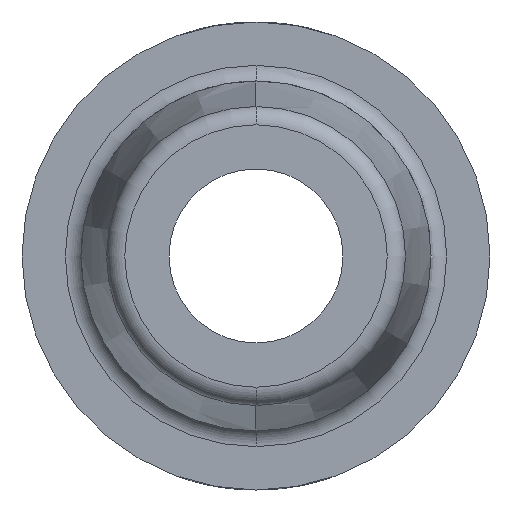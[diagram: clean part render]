
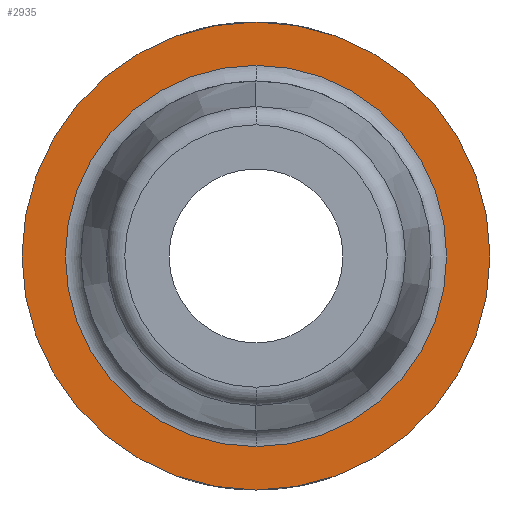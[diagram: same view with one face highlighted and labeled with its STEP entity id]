
A CAD part, left-side view. The second image highlights one B-rep face of the part: STEP entity #2935.
In plain terms, the highlighted planar face has unit normal (-1, 0, 0).
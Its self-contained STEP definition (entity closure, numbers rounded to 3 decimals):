
#62=FACE_BOUND('',#902,.T.);
#73=PLANE('',#3238);
#737=FACE_OUTER_BOUND('',#901,.T.);
#901=EDGE_LOOP('',(#2245,#2246));
#902=EDGE_LOOP('',(#2247,#2248));
#1050=CIRCLE('',#3095,2.587);
#1102=CIRCLE('',#3166,3.175);
#1137=CIRCLE('',#3203,3.175);
#1162=CIRCLE('',#3239,2.587);
#1199=VERTEX_POINT('',#4143);
#1200=VERTEX_POINT('',#4144);
#1299=VERTEX_POINT('',#4575);
#1300=VERTEX_POINT('',#4577);
#1511=EDGE_CURVE('',#1199,#1200,#1050,.T.);
#1617=EDGE_CURVE('',#1300,#1299,#1102,.T.);
#1689=EDGE_CURVE('',#1299,#1300,#1137,.T.);
#1753=EDGE_CURVE('',#1200,#1199,#1162,.T.);
#2245=ORIENTED_EDGE('',*,*,#1617,.T.);
#2246=ORIENTED_EDGE('',*,*,#1689,.T.);
#2247=ORIENTED_EDGE('',*,*,#1753,.T.);
#2248=ORIENTED_EDGE('',*,*,#1511,.T.);
#2935=ADVANCED_FACE('',(#737,#62),#73,.F.);
#3095=AXIS2_PLACEMENT_3D('',#4145,#3374,#3375);
#3166=AXIS2_PLACEMENT_3D('',#4578,#3549,#3550);
#3203=AXIS2_PLACEMENT_3D('',#4848,#3654,#3655);
#3238=AXIS2_PLACEMENT_3D('',#5436,#3737,#3738);
#3239=AXIS2_PLACEMENT_3D('',#5437,#3739,#3740);
#3374=DIRECTION('center_axis',(1.,0.,0.));
#3375=DIRECTION('ref_axis',(0.,0.,
1.));
#3549=DIRECTION('center_axis',(-1.,0.,0.));
#3550=DIRECTION('ref_axis',(0.,0.,1.));
#3654=DIRECTION('center_axis',(-1.,0.,0.));
#3655=DIRECTION('ref_axis',(0.,0.,
-1.));
#3737=DIRECTION('center_axis',(1.,0.,0.));
#3738=DIRECTION('ref_axis',(0.,0.,-1.));
#3739=DIRECTION('center_axis',(1.,0.,0.));
#3740=DIRECTION('ref_axis',(0.,0.,-1.));
#4143=CARTESIAN_POINT('',(-12.25,0.,2.587));
#4144=CARTESIAN_POINT('',(-12.25,0.,-2.587));
#4145=CARTESIAN_POINT('Origin',(-12.25,0.,0.));
#4575=CARTESIAN_POINT('',(-12.25,0.,-3.175));
#4577=CARTESIAN_POINT('',(-12.25,0.,3.175));
#4578=CARTESIAN_POINT('Origin',(-12.25,0.,0.));
#4848=CARTESIAN_POINT('Origin',(-12.25,0.,0.));
#5436=CARTESIAN_POINT('Origin',(-12.25,-3.213,0.));
#5437=CARTESIAN_POINT('Origin',(-12.25,0.,0.));
